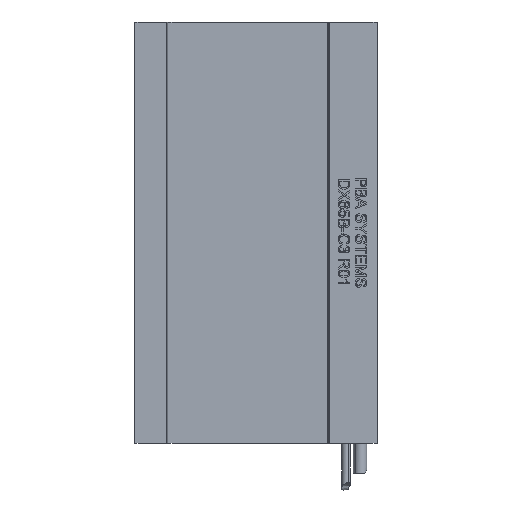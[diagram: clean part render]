
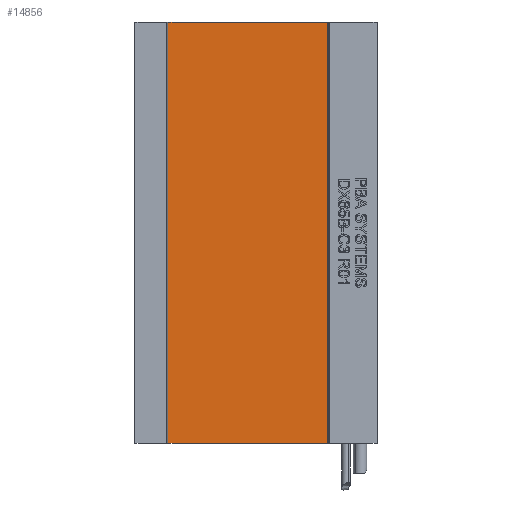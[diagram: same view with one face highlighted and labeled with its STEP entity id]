
A CAD part, left-side view. The second image highlights one B-rep face of the part: STEP entity #14856.
In plain terms, the highlighted planar face has unit normal (-1, 0, 0) as drawn and (1, 0, 0) by its records, which use the part's own axes.
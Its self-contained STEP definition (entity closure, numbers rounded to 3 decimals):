
#298 = LINE ( 'NONE', #16740, #430 ) ;
#430 = VECTOR ( 'NONE', #16370, 1000. ) ;
#640 = CARTESIAN_POINT ( 'NONE',  ( 5.6, 82.7, 0. ) ) ;
#1101 = DIRECTION ( 'NONE',  ( 0., 1., 0. ) ) ;
#3601 = EDGE_CURVE ( 'NONE', #23777, #17130, #298, .T. ) ;
#3649 = CARTESIAN_POINT ( 'NONE',  ( 5.6, 14.2, 0. ) ) ;
#4513 = FACE_OUTER_BOUND ( 'NONE', #18488, .T. ) ;
#5657 = ORIENTED_EDGE ( 'NONE', *, *, #8212, .F. ) ;
#6603 = CARTESIAN_POINT ( 'NONE',  ( 5.6, 14.2, 181. ) ) ;
#7214 = EDGE_CURVE ( 'NONE', #30697, #16488, #26770, .T. ) ;
#8212 = EDGE_CURVE ( 'NONE', #30697, #23777, #37157, .T. ) ;
#10067 = EDGE_CURVE ( 'NONE', #16488, #17130, #32786, .T. ) ;
#12373 = DIRECTION ( 'NONE',  ( 0., 1., 0. ) ) ;
#12862 = CARTESIAN_POINT ( 'NONE',  ( 5.6, 14.2, 181. ) ) ;
#13944 = CARTESIAN_POINT ( 'NONE',  ( 5.6, 14.2, 181. ) ) ;
#14856 = ADVANCED_FACE ( 'NONE', ( #4513 ), #30750, .F. ) ;
#16370 = DIRECTION ( 'NONE',  ( 0., 0., -1. ) ) ;
#16488 = VERTEX_POINT ( 'NONE', #30378 ) ;
#16740 = CARTESIAN_POINT ( 'NONE',  ( 5.6, 82.7, 181. ) ) ;
#17130 = VERTEX_POINT ( 'NONE', #640 ) ;
#18488 = EDGE_LOOP ( 'NONE', ( #29394, #28522, #5657, #23248 ) ) ;
#19414 = CARTESIAN_POINT ( 'NONE',  ( 5.6, 82.7, 181. ) ) ;
#23248 = ORIENTED_EDGE ( 'NONE', *, *, #7214, .T. ) ;
#23777 = VERTEX_POINT ( 'NONE', #19414 ) ;
#25811 = DIRECTION ( 'NONE',  ( 0., 0., -1. ) ) ;
#26770 = LINE ( 'NONE', #13944, #28241 ) ;
#28241 = VECTOR ( 'NONE', #25811, 1000. ) ;
#28522 = ORIENTED_EDGE ( 'NONE', *, *, #3601, .F. ) ;
#29394 = ORIENTED_EDGE ( 'NONE', *, *, #10067, .T. ) ;
#30378 = CARTESIAN_POINT ( 'NONE',  ( 5.6, 14.2, 0. ) ) ;
#30594 = DIRECTION ( 'NONE',  ( 0., 0., 1. ) ) ;
#30697 = VERTEX_POINT ( 'NONE', #6603 ) ;
#30714 = DIRECTION ( 'NONE',  ( -1., 0., 0. ) ) ;
#30750 = PLANE ( 'NONE',  #31043 ) ;
#31043 = AXIS2_PLACEMENT_3D ( 'NONE', #31487, #30714, #30594 ) ;
#31487 = CARTESIAN_POINT ( 'NONE',  ( 5.6, 14.2, 181. ) ) ;
#32786 = LINE ( 'NONE', #3649, #33223 ) ;
#33223 = VECTOR ( 'NONE', #1101, 1000. ) ;
#36083 = VECTOR ( 'NONE', #12373, 1000. ) ;
#37157 = LINE ( 'NONE', #12862, #36083 ) ;
